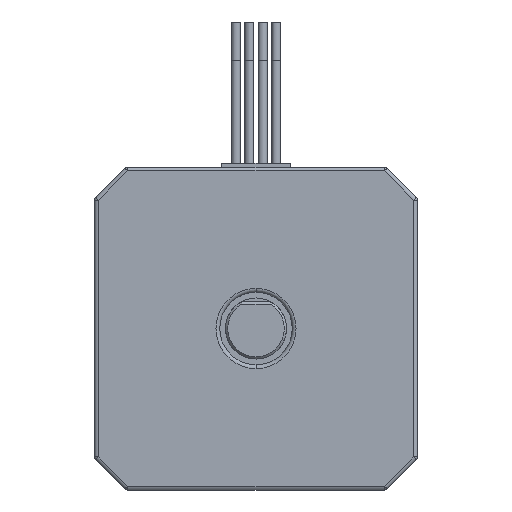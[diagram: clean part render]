
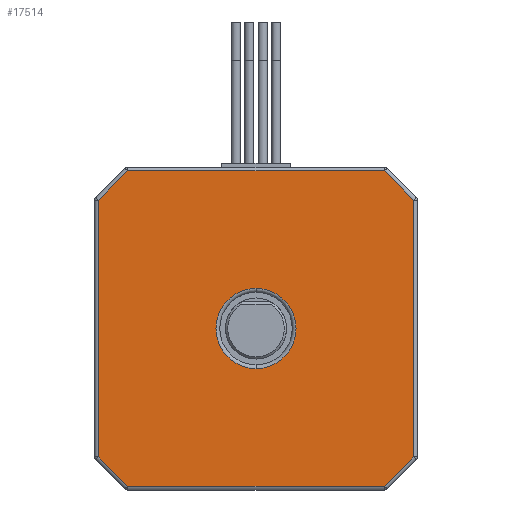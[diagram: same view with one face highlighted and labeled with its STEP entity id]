
A CAD part, front view. The second image highlights one B-rep face of the part: STEP entity #17514.
In plain terms, the highlighted planar face has unit normal (0, -1, 0).
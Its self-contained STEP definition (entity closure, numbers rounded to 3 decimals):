
#614 = VECTOR ( 'NONE', #14326, 1000. ) ;
#770 = AXIS2_PLACEMENT_3D ( 'NONE', #33019, #26617, #8150 ) ;
#1046 = CARTESIAN_POINT ( 'NONE',  ( -16.827, 0., -20.65 ) ) ;
#1491 = CARTESIAN_POINT ( 'NONE',  ( 17.034, 0., -20.65 ) ) ;
#1910 = DIRECTION ( 'NONE',  ( 1., 0., 0. ) ) ;
#1983 = ORIENTED_EDGE ( 'NONE', *, *, #28414, .T. ) ;
#2024 = CARTESIAN_POINT ( 'NONE',  ( 0., 0., 0. ) ) ;
#3564 = CARTESIAN_POINT ( 'NONE',  ( 16.827, 0., -20.65 ) ) ;
#3844 = FACE_OUTER_BOUND ( 'NONE', #17348, .T. ) ;
#4091 = CARTESIAN_POINT ( 'NONE',  ( 0., 0., 5.25 ) ) ;
#4101 = ORIENTED_EDGE ( 'NONE', *, *, #10804, .T. ) ;
#4721 = CARTESIAN_POINT ( 'NONE',  ( 20.65, 0., 17.034 ) ) ;
#5231 = VERTEX_POINT ( 'NONE', #15163 ) ;
#5250 = LINE ( 'NONE', #10715, #34242 ) ;
#5395 = DIRECTION ( 'NONE',  ( 0.707, 0., 0.707 ) ) ;
#5839 = ORIENTED_EDGE ( 'NONE', *, *, #36854, .T. ) ;
#5888 = VERTEX_POINT ( 'NONE', #31980 ) ;
#6799 = LINE ( 'NONE', #32302, #27010 ) ;
#7558 = DIRECTION ( 'NONE',  ( 0., 0., -1. ) ) ;
#7909 = DIRECTION ( 'NONE',  ( 0., 1., 0. ) ) ;
#8150 = DIRECTION ( 'NONE',  ( 0., 0., 1. ) ) ;
#9246 = ORIENTED_EDGE ( 'NONE', *, *, #40211, .T. ) ;
#9348 = EDGE_CURVE ( 'NONE', #10470, #22263, #24223, .T. ) ;
#9749 = CIRCLE ( 'NONE', #38405, 5.25 ) ;
#10321 = CARTESIAN_POINT ( 'NONE',  ( 20.65, 0., -16.827 ) ) ;
#10470 = VERTEX_POINT ( 'NONE', #1046 ) ;
#10544 = DIRECTION ( 'NONE',  ( 0., 0., 1. ) ) ;
#10715 = CARTESIAN_POINT ( 'NONE',  ( -20.65, 0., 0. ) ) ;
#10794 = VERTEX_POINT ( 'NONE', #23737 ) ;
#10804 = EDGE_CURVE ( 'NONE', #5231, #30318, #9749, .T. ) ;
#10951 = CARTESIAN_POINT ( 'NONE',  ( 0., 0., 0. ) ) ;
#11082 = CARTESIAN_POINT ( 'NONE',  ( 16.827, 0., 20.65 ) ) ;
#13254 = DIRECTION ( 'NONE',  ( -0.707, 0., -0.707 ) ) ;
#14326 = DIRECTION ( 'NONE',  ( 0., 0., 1. ) ) ;
#14541 = LINE ( 'NONE', #4721, #614 ) ;
#14931 = EDGE_CURVE ( 'NONE', #21861, #19034, #5250, .T. ) ;
#15163 = CARTESIAN_POINT ( 'NONE',  ( 0., 0., -5.25 ) ) ;
#15310 = VECTOR ( 'NONE', #13254, 1000. ) ;
#16488 = EDGE_CURVE ( 'NONE', #10794, #36135, #6799, .T. ) ;
#16797 = CARTESIAN_POINT ( 'NONE',  ( -16.68, 0., -20.796 ) ) ;
#16816 = VERTEX_POINT ( 'NONE', #10321 ) ;
#16901 = ORIENTED_EDGE ( 'NONE', *, *, #35520, .T. ) ;
#17186 = ORIENTED_EDGE ( 'NONE', *, *, #14931, .T. ) ;
#17190 = DIRECTION ( 'NONE',  ( 0., 1., 0. ) ) ;
#17348 = EDGE_LOOP ( 'NONE', ( #28156, #5839, #28809, #17186, #1983, #22063, #16901, #9246 ) ) ;
#17514 = ADVANCED_FACE ( 'NONE', ( #3844, #19301 ), #32071, .F. ) ;
#17712 = CARTESIAN_POINT ( 'NONE',  ( -20.65, 0., 16.827 ) ) ;
#18231 = DIRECTION ( 'NONE',  ( -1., 0., 0. ) ) ;
#18882 = ORIENTED_EDGE ( 'NONE', *, *, #29769, .T. ) ;
#19034 = VERTEX_POINT ( 'NONE', #35488 ) ;
#19301 = FACE_BOUND ( 'NONE', #33185, .T. ) ;
#20822 = DIRECTION ( 'NONE',  ( 0., 0., 1. ) ) ;
#21861 = VERTEX_POINT ( 'NONE', #17712 ) ;
#22063 = ORIENTED_EDGE ( 'NONE', *, *, #9348, .T. ) ;
#22263 = VERTEX_POINT ( 'NONE', #3564 ) ;
#22599 = VECTOR ( 'NONE', #26169, 1000. ) ;
#23737 = CARTESIAN_POINT ( 'NONE',  ( 20.65, 0., 16.827 ) ) ;
#24223 = LINE ( 'NONE', #1491, #34954 ) ;
#25794 = VECTOR ( 'NONE', #18231, 1000. ) ;
#26081 = CIRCLE ( 'NONE', #770, 5.25 ) ;
#26169 = DIRECTION ( 'NONE',  ( 0.707, 0., -0.707 ) ) ;
#26617 = DIRECTION ( 'NONE',  ( 0., 1., 0. ) ) ;
#27010 = VECTOR ( 'NONE', #32109, 1000. ) ;
#27444 = LINE ( 'NONE', #34334, #25794 ) ;
#28156 = ORIENTED_EDGE ( 'NONE', *, *, #16488, .T. ) ;
#28414 = EDGE_CURVE ( 'NONE', #19034, #10470, #39775, .T. ) ;
#28809 = ORIENTED_EDGE ( 'NONE', *, *, #28890, .T. ) ;
#28890 = EDGE_CURVE ( 'NONE', #5888, #21861, #30112, .T. ) ;
#29769 = EDGE_CURVE ( 'NONE', #30318, #5231, #26081, .T. ) ;
#30112 = LINE ( 'NONE', #36387, #15310 ) ;
#30318 = VERTEX_POINT ( 'NONE', #4091 ) ;
#31515 = CARTESIAN_POINT ( 'NONE',  ( 20.796, 0., -16.68 ) ) ;
#31980 = CARTESIAN_POINT ( 'NONE',  ( -16.827, 0., 20.65 ) ) ;
#32071 = PLANE ( 'NONE',  #41207 ) ;
#32109 = DIRECTION ( 'NONE',  ( -0.707, 0., 0.707 ) ) ;
#32302 = CARTESIAN_POINT ( 'NONE',  ( 16.68, 0., 20.796 ) ) ;
#33019 = CARTESIAN_POINT ( 'NONE',  ( 0., 0., 0. ) ) ;
#33185 = EDGE_LOOP ( 'NONE', ( #18882, #4101 ) ) ;
#34242 = VECTOR ( 'NONE', #7558, 1000. ) ;
#34334 = CARTESIAN_POINT ( 'NONE',  ( 0., 0., 20.65 ) ) ;
#34954 = VECTOR ( 'NONE', #1910, 1000. ) ;
#35488 = CARTESIAN_POINT ( 'NONE',  ( -20.65, 0., -16.827 ) ) ;
#35520 = EDGE_CURVE ( 'NONE', #22263, #16816, #37173, .T. ) ;
#36135 = VERTEX_POINT ( 'NONE', #11082 ) ;
#36295 = VECTOR ( 'NONE', #5395, 1000. ) ;
#36387 = CARTESIAN_POINT ( 'NONE',  ( -20.796, 0., 16.68 ) ) ;
#36854 = EDGE_CURVE ( 'NONE', #36135, #5888, #27444, .T. ) ;
#37173 = LINE ( 'NONE', #31515, #36295 ) ;
#38405 = AXIS2_PLACEMENT_3D ( 'NONE', #2024, #7909, #20822 ) ;
#39775 = LINE ( 'NONE', #16797, #22599 ) ;
#40211 = EDGE_CURVE ( 'NONE', #16816, #10794, #14541, .T. ) ;
#41207 = AXIS2_PLACEMENT_3D ( 'NONE', #10951, #17190, #10544 ) ;
